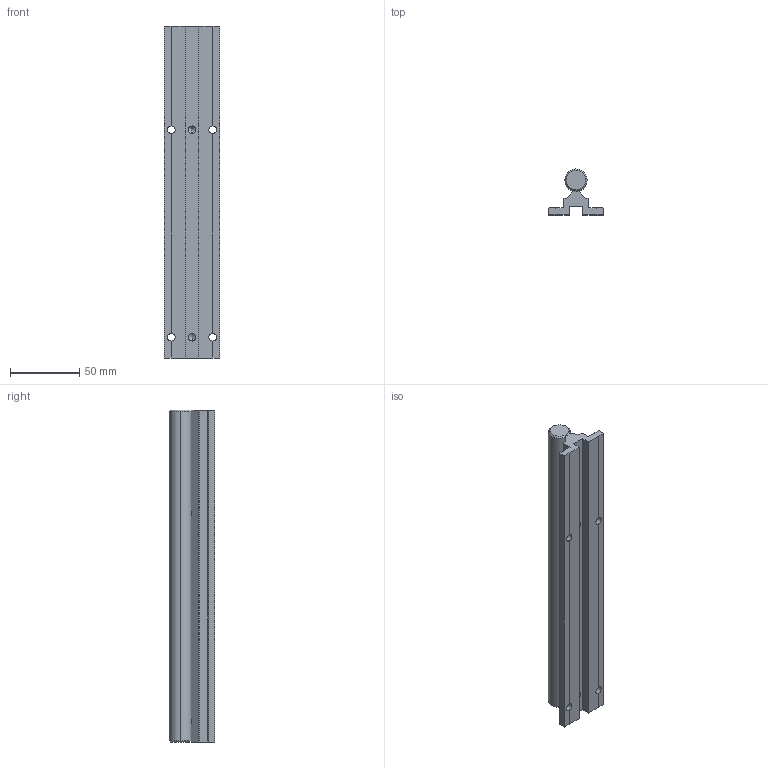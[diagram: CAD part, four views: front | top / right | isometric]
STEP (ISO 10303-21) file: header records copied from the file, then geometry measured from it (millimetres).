
FILE_DESCRIPTION (( 'STEP AP203' ), '1' );
FILE_NAME ('SBR16PARTE.STEP', '2023-12-18T14:18:52', ( '' ), ( '' ), 'SwSTEP 2.0', 'SolidWorks 2019', '' );
FILE_SCHEMA (( 'CONFIG_CONTROL_DESIGN' ));
Length unit declared in the file: millimetre
Products named in the file (1): SBR16PARTE
Bounding box: 40 x 33 x 240 mm (x, y, z)
Volume: 122273.6 mm3; surface area: 42752.8 mm2
Topology: 2 solids, 2 shells, 83 faces, 255 edges, 164 vertices
Faces by surface type: plane 57, cylinder 18, cone 8
Entity records: 3008 total; most frequent: CARTESIAN_POINT 755, ORIENTED_EDGE 502, DIRECTION 419, EDGE_CURVE 251, VERTEX_POINT 164, VECTOR 155, LINE 155, AXIS2_PLACEMENT_3D 132
